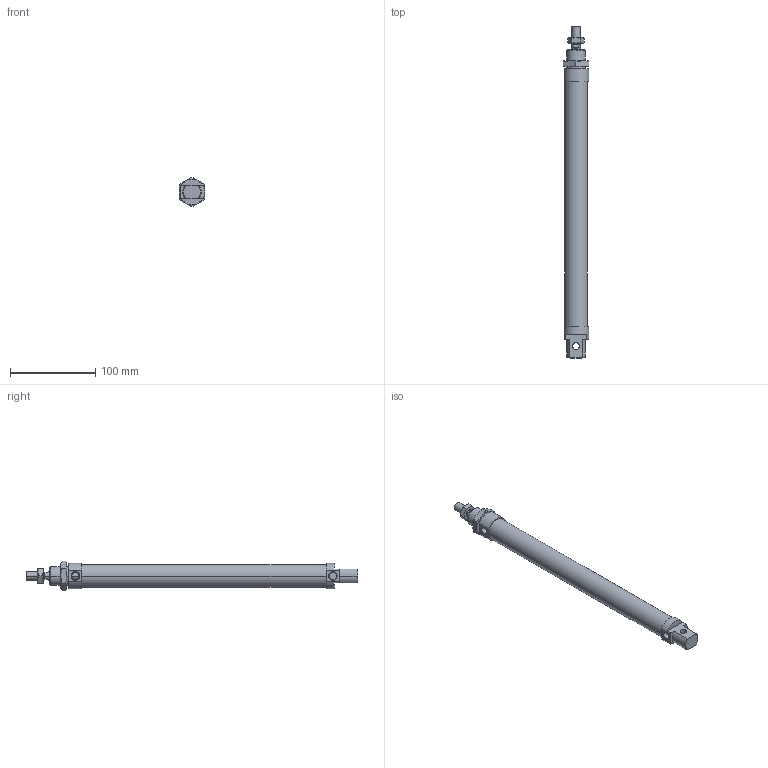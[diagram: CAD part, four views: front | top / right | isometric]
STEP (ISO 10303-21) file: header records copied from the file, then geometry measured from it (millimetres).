
FILE_DESCRIPTION((''),'2;1');
FILE_NAME('I:\DOC-EDP\Lib-3d\1200\CILINDRI\1280\1280_25_0250.stp','2003-04-07T18:00:48',('maffial1'),(''),'Autodesk Inventor (R) 6.0','Autodesk Inventor (R) 6.0','');
FILE_SCHEMA(('AUTOMOTIVE_DESIGN { 1 0 10303 214 1 1 1 1 }'));
Length unit declared in the file: millimetre
Products named in the file (5): 1280_25_0250; S1280_25_250; 1200_25_05; 1200_25_06; C1280_25_250
Assembly tree (4 placements, depth 2):
  1280_25_0250
    S1280_25_250
    1200_25_05
    1200_25_06
    C1280_25_250
Bounding box: 30 x 390 x 34.64 mm (x, y, z)
Volume: 197973.6 mm3; surface area: 53947 mm2
Topology: 4 solids, 4 shells, 124 faces, 281 edges, 170 vertices
Faces by surface type: plane 41, cone 40, cylinder 22, bspline 21
Entity records: 3808 total; most frequent: CARTESIAN_POINT 1031, DIRECTION 573, ORIENTED_EDGE 562, EDGE_CURVE 281, AXIS2_PLACEMENT_3D 236, VERTEX_POINT 170, EDGE_LOOP 137, FACE_OUTER_BOUND 124
